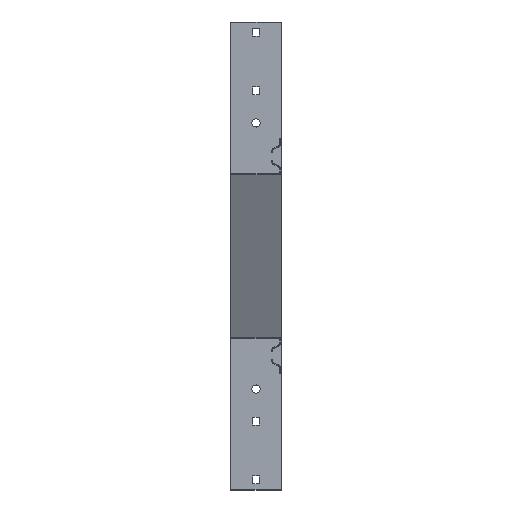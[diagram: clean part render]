
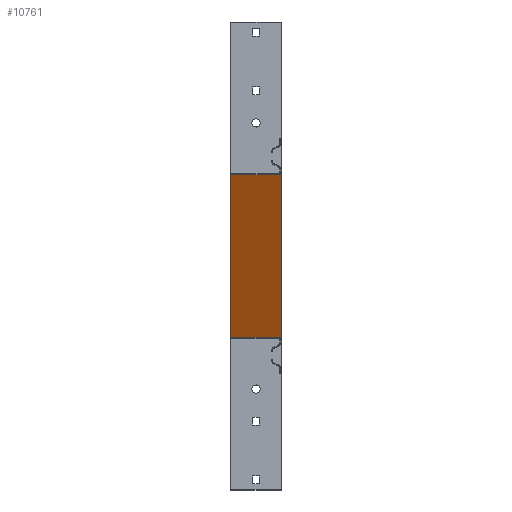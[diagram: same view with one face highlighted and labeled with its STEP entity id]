
A CAD part, left-side view. The second image highlights one B-rep face of the part: STEP entity #10761.
In plain terms, the highlighted planar face has unit normal (-0.881, 0, -0.472) as drawn and (0.881, 0, -0.472) by its records, which use the part's own axes.
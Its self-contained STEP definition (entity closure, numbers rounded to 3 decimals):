
#134 = AXIS2_PLACEMENT_3D ( 'NONE', #7501, #4854, #3877 ) ;
#1172 = VERTEX_POINT ( 'NONE', #2690 ) ;
#1540 = LINE ( 'NONE', #3416, #7532 ) ;
#2197 = ORIENTED_EDGE ( 'NONE', *, *, #4907, .T. ) ;
#2690 = CARTESIAN_POINT ( 'NONE',  ( 451.585, 0., -1.276 ) ) ;
#2806 = ORIENTED_EDGE ( 'NONE', *, *, #6180, .F. ) ;
#3416 = CARTESIAN_POINT ( 'NONE',  ( 302.178, 0., -280.17 ) ) ;
#3877 = DIRECTION ( 'NONE',  ( 0.472, 0., 0.881 ) ) ;
#4711 = VERTEX_POINT ( 'NONE', #6443 ) ;
#4780 = VECTOR ( 'NONE', #10846, 1000. ) ;
#4854 = DIRECTION ( 'NONE',  ( -0.881, 0., 0.472 ) ) ;
#4859 = LINE ( 'NONE', #8537, #9629 ) ;
#4907 = EDGE_CURVE ( 'NONE', #4711, #7006, #1540, .T. ) ;
#5140 = DIRECTION ( 'NONE',  ( 0., 1., 0. ) ) ;
#5686 = DIRECTION ( 'NONE',  ( -0.472, 0., -0.881 ) ) ;
#5707 = CARTESIAN_POINT ( 'NONE',  ( 302.178, 87., -280.17 ) ) ;
#5727 = EDGE_LOOP ( 'NONE', ( #9975, #2197, #2806, #7786 ) ) ;
#6180 = EDGE_CURVE ( 'NONE', #7091, #7006, #4859, .T. ) ;
#6308 = EDGE_CURVE ( 'NONE', #1172, #4711, #7302, .T. ) ;
#6443 = CARTESIAN_POINT ( 'NONE',  ( 302.178, 0., -280.17 ) ) ;
#7006 = VERTEX_POINT ( 'NONE', #5707 ) ;
#7091 = VERTEX_POINT ( 'NONE', #10760 ) ;
#7302 = LINE ( 'NONE', #11692, #4780 ) ;
#7501 = CARTESIAN_POINT ( 'NONE',  ( 451.763, 87., -0.944 ) ) ;
#7532 = VECTOR ( 'NONE', #8941, 1000. ) ;
#7786 = ORIENTED_EDGE ( 'NONE', *, *, #8949, .F. ) ;
#8296 = VECTOR ( 'NONE', #5140, 1000. ) ;
#8537 = CARTESIAN_POINT ( 'NONE',  ( 451.763, 87., -0.944 ) ) ;
#8941 = DIRECTION ( 'NONE',  ( 0., 1., 0. ) ) ;
#8949 = EDGE_CURVE ( 'NONE', #1172, #7091, #10731, .T. ) ;
#9021 = CARTESIAN_POINT ( 'NONE',  ( 451.585, 0., -1.276 ) ) ;
#9457 = PLANE ( 'NONE',  #134 ) ;
#9629 = VECTOR ( 'NONE', #5686, 1000. ) ;
#9975 = ORIENTED_EDGE ( 'NONE', *, *, #6308, .T. ) ;
#10431 = FACE_OUTER_BOUND ( 'NONE', #5727, .T. ) ;
#10731 = LINE ( 'NONE', #9021, #8296 ) ;
#10760 = CARTESIAN_POINT ( 'NONE',  ( 451.585, 87., -1.276 ) ) ;
#10761 = ADVANCED_FACE ( 'NONE', ( #10431 ), #9457, .F. ) ;
#10846 = DIRECTION ( 'NONE',  ( -0.472, 0., -0.881 ) ) ;
#11692 = CARTESIAN_POINT ( 'NONE',  ( 451.763, 0., -0.944 ) ) ;
